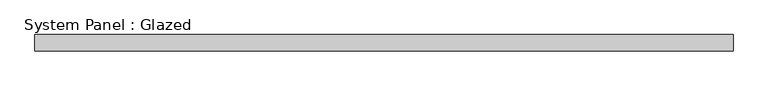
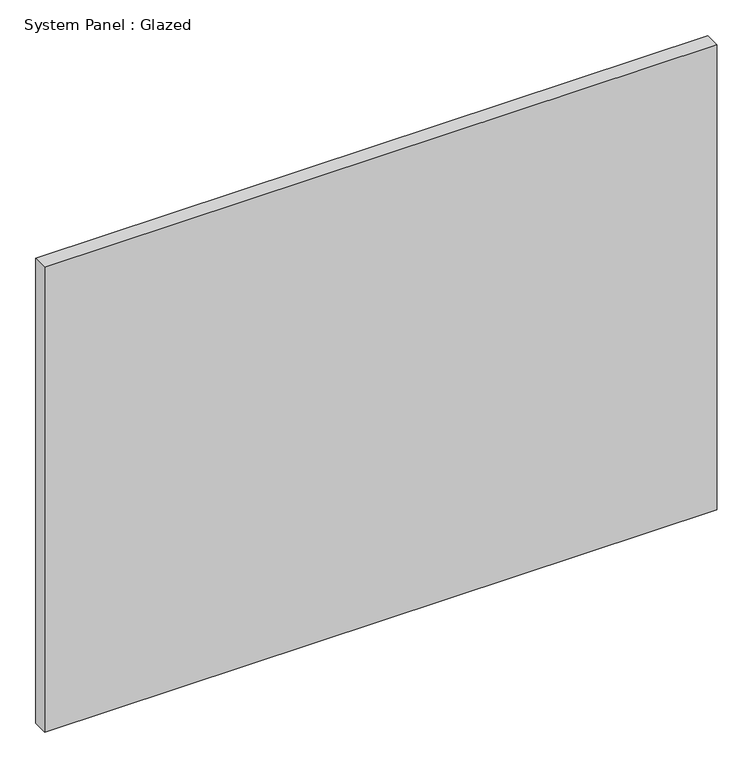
"""IFC4 building model written with IfcOpenShell, lengths in millimetres: plate geometry, System Panel : Glazed."""

from ifc_helpers import new_model, si_unit, origin, origin_with_axes, place, context, project, spatial, polyline, outline, extrude, source, transform, mapped, element, save


def system_panel_glazed_0dba37f9(model_context):
    return source(origin(), model_context, "Body", "SweptSolid", [
        extrude(outline(polyline([(546.4101089, 19.05), (-546.4101089, 19.05), (-546.4101089, 44.45), (546.4101089, 44.45), (546.4101089, 19.05)])), origin_with_axes(), (0.0, 0.0, 1.0), 798.5967633),
    ])


if __name__ == "__main__":
    model = new_model("IFC4")
    model_context = context("Model", 3, world=origin())
    ifc_project = project(units=[si_unit("LENGTHUNIT", "METRE", prefix="MILLI")], contexts=[model_context])
    site = spatial("IfcSite", under=ifc_project)
    building = spatial("IfcBuilding", under=site)
    placement = place(None, origin())
    system_panel_glazed_shape = system_panel_glazed_0dba37f9(model_context)
    element("IfcPlate", 1, ObjectType="System Panel : Glazed", at=placement, inside=building, context=model_context, shape_type="MappedRepresentation", body=[
        mapped(system_panel_glazed_shape, transform((0.0, 0.0, 0.0), x_axis=(1.0, 0.0, 0.0), y_axis=(0.0, 1.0, 0.0), z_axis=(0.0, 0.0, 1.0))),
    ])
    save(model, "model.ifc")
